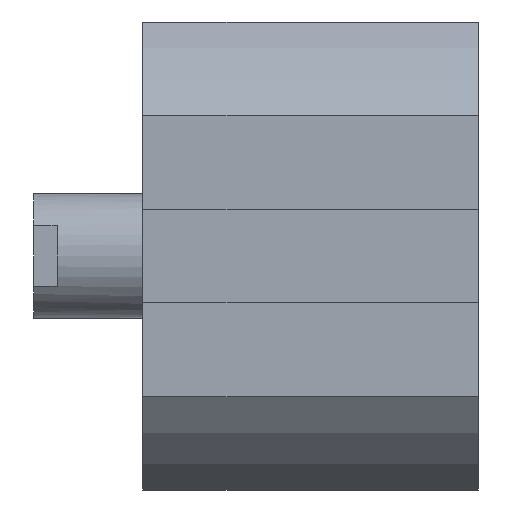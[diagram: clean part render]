
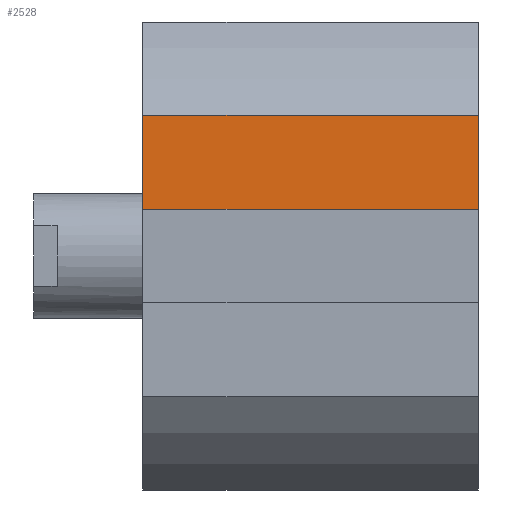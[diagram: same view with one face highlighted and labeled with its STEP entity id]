
A CAD part, left-side view. The second image highlights one B-rep face of the part: STEP entity #2528.
In plain terms, the highlighted planar face has unit normal (-1, 0, 0).
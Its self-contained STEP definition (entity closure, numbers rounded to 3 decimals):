
#35 = EDGE_CURVE ( 'NONE', #185, #404, #2560, .T. ) ;
#51 = DIRECTION ( 'NONE',  ( 0., 0., 1. ) ) ;
#185 = VERTEX_POINT ( 'NONE', #1658 ) ;
#295 = CARTESIAN_POINT ( 'NONE',  ( -30., -43., 0. ) ) ;
#320 = EDGE_LOOP ( 'NONE', ( #2855, #2492, #2111, #511 ) ) ;
#404 = VERTEX_POINT ( 'NONE', #1509 ) ;
#511 = ORIENTED_EDGE ( 'NONE', *, *, #2553, .T. ) ;
#533 = LINE ( 'NONE', #1764, #1165 ) ;
#740 = EDGE_CURVE ( 'NONE', #2296, #185, #1560, .T. ) ;
#761 = VECTOR ( 'NONE', #1834, 1000. ) ;
#965 = VECTOR ( 'NONE', #51, 1000. ) ;
#996 = DIRECTION ( 'NONE',  ( -1., 0., 0. ) ) ;
#1165 = VECTOR ( 'NONE', #2499, 1000. ) ;
#1350 = CARTESIAN_POINT ( 'NONE',  ( -30., 0., 0. ) ) ;
#1503 = DIRECTION ( 'NONE',  ( 0., 0., 1. ) ) ;
#1509 = CARTESIAN_POINT ( 'NONE',  ( -30., 0., 18.028 ) ) ;
#1526 = DIRECTION ( 'NONE',  ( 0., 1., 0. ) ) ;
#1560 = LINE ( 'NONE', #2864, #761 ) ;
#1658 = CARTESIAN_POINT ( 'NONE',  ( -30., 0., 6. ) ) ;
#1735 = AXIS2_PLACEMENT_3D ( 'NONE', #295, #996, #1503 ) ;
#1764 = CARTESIAN_POINT ( 'NONE',  ( -30., -43., 0. ) ) ;
#1834 = DIRECTION ( 'NONE',  ( 0., 1., 0. ) ) ;
#2111 = ORIENTED_EDGE ( 'NONE', *, *, #3086, .T. ) ;
#2200 = VECTOR ( 'NONE', #1526, 1000. ) ;
#2276 = PLANE ( 'NONE',  #1735 ) ;
#2296 = VERTEX_POINT ( 'NONE', #2713 ) ;
#2492 = ORIENTED_EDGE ( 'NONE', *, *, #740, .F. ) ;
#2499 = DIRECTION ( 'NONE',  ( 0., 0., 1. ) ) ;
#2528 = ADVANCED_FACE ( 'NONE', ( #2687 ), #2276, .T. ) ;
#2529 = LINE ( 'NONE', #3075, #2200 ) ;
#2553 = EDGE_CURVE ( 'NONE', #3259, #404, #2529, .T. ) ;
#2560 = LINE ( 'NONE', #1350, #965 ) ;
#2687 = FACE_OUTER_BOUND ( 'NONE', #320, .T. ) ;
#2713 = CARTESIAN_POINT ( 'NONE',  ( -30., -43., 6. ) ) ;
#2815 = CARTESIAN_POINT ( 'NONE',  ( -30., -43., 18.028 ) ) ;
#2855 = ORIENTED_EDGE ( 'NONE', *, *, #35, .F. ) ;
#2864 = CARTESIAN_POINT ( 'NONE',  ( -30., -43., 6. ) ) ;
#3075 = CARTESIAN_POINT ( 'NONE',  ( -30., -43., 18.028 ) ) ;
#3086 = EDGE_CURVE ( 'NONE', #2296, #3259, #533, .T. ) ;
#3259 = VERTEX_POINT ( 'NONE', #2815 ) ;
